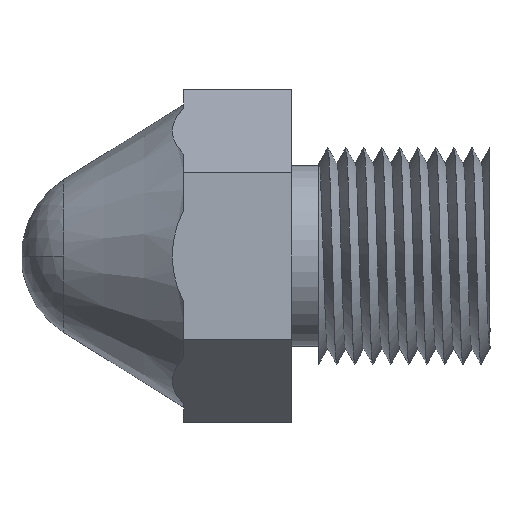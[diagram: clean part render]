
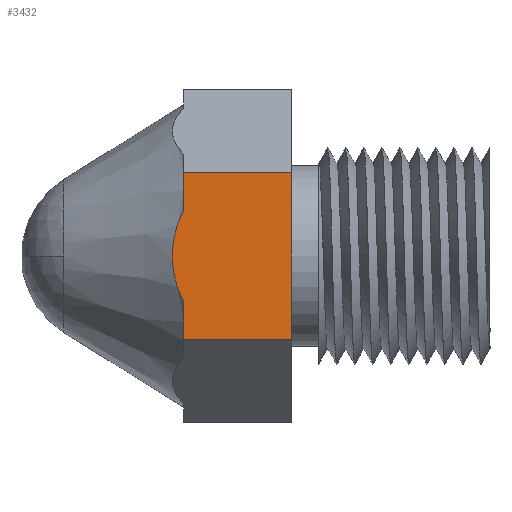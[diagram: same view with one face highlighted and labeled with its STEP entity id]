
A CAD part, front view. The second image highlights one B-rep face of the part: STEP entity #3432.
In plain terms, the highlighted planar face has unit normal (0, -1, 0).
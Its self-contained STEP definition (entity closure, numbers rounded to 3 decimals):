
#52 = DIRECTION ( 'NONE',  ( 0., 0., -1. ) ) ;
#60 = EDGE_CURVE ( 'NONE', #883, #1681, #653, .T. ) ;
#76 = CARTESIAN_POINT ( 'NONE',  ( 16.964, -16., 2.189 ) ) ;
#284 = CARTESIAN_POINT ( 'NONE',  ( 18., -16., -5.092 ) ) ;
#310 = CARTESIAN_POINT ( 'NONE',  ( 18., -16., -5.092 ) ) ;
#338 = CARTESIAN_POINT ( 'NONE',  ( 17.616, -16., 4.301 ) ) ;
#392 = VECTOR ( 'NONE', #3034, 1000. ) ;
#434 = VERTEX_POINT ( 'NONE', #1482 ) ;
#590 = CARTESIAN_POINT ( 'NONE',  ( 16.878, -16., 1.753 ) ) ;
#600 = DIRECTION ( 'NONE',  ( 0., 0., 1. ) ) ;
#609 = ORIENTED_EDGE ( 'NONE', *, *, #2058, .T. ) ;
#618 = PLANE ( 'NONE',  #1944 ) ;
#653 = LINE ( 'NONE', #2943, #1608 ) ;
#765 = ORIENTED_EDGE ( 'NONE', *, *, #3001, .T. ) ;
#799 = ORIENTED_EDGE ( 'NONE', *, *, #60, .T. ) ;
#835 = CARTESIAN_POINT ( 'NONE',  ( 16.735, -16., 0.445 ) ) ;
#883 = VERTEX_POINT ( 'NONE', #284 ) ;
#900 = ORIENTED_EDGE ( 'NONE', *, *, #1973, .F. ) ;
#906 = EDGE_CURVE ( 'NONE', #883, #1180, #1211, .T. ) ;
#946 = CARTESIAN_POINT ( 'NONE',  ( 18., -16., 0. ) ) ;
#1034 = CARTESIAN_POINT ( 'NONE',  ( 30., -16., 9.238 ) ) ;
#1050 = LINE ( 'NONE', #3014, #392 ) ;
#1070 = CARTESIAN_POINT ( 'NONE',  ( 17.612, -16., -4.293 ) ) ;
#1080 = CARTESIAN_POINT ( 'NONE',  ( 17.295, -16., -3.471 ) ) ;
#1110 = CARTESIAN_POINT ( 'NONE',  ( 16.764, -16., 0.882 ) ) ;
#1149 = DIRECTION ( 'NONE',  ( 0., 0., 1. ) ) ;
#1180 = VERTEX_POINT ( 'NONE', #2893 ) ;
#1202 = CARTESIAN_POINT ( 'NONE',  ( 8., -16., 9.238 ) ) ;
#1211 = B_SPLINE_CURVE_WITH_KNOTS ( 'NONE', 3,
 ( #310, #1070, #1080, #2151, #3245, #1381, #2449, #835, #1110, #590, #76, #2975, #338, #3260 ),
 .UNSPECIFIED., .F., .F.,
 ( 4, 2, 2, 2, 2, 2, 4 ),
 ( 0.045, 0.047, 0.049, 0.05, 0.051, 0.052, 0.055 ),
 .UNSPECIFIED. ) ;
#1381 = CARTESIAN_POINT ( 'NONE',  ( 16.763, -16., -0.871 ) ) ;
#1482 = CARTESIAN_POINT ( 'NONE',  ( 18., -16., 9.238 ) ) ;
#1608 = VECTOR ( 'NONE', #52, 1000. ) ;
#1649 = LINE ( 'NONE', #946, #2887 ) ;
#1656 = CARTESIAN_POINT ( 'NONE',  ( 18., -16., -9.238 ) ) ;
#1681 = VERTEX_POINT ( 'NONE', #1656 ) ;
#1937 = CARTESIAN_POINT ( 'NONE',  ( 30., -16., 0. ) ) ;
#1939 = LINE ( 'NONE', #1937, #2923 ) ;
#1944 = AXIS2_PLACEMENT_3D ( 'NONE', #3029, #3314, #1149 ) ;
#1973 = EDGE_CURVE ( 'NONE', #434, #2212, #2347, .T. ) ;
#2044 = DIRECTION ( 'NONE',  ( 1., 0., 0. ) ) ;
#2058 = EDGE_CURVE ( 'NONE', #434, #1180, #1649, .T. ) ;
#2151 = CARTESIAN_POINT ( 'NONE',  ( 16.965, -16., -2.19 ) ) ;
#2212 = VERTEX_POINT ( 'NONE', #1034 ) ;
#2229 = ORIENTED_EDGE ( 'NONE', *, *, #906, .F. ) ;
#2347 = LINE ( 'NONE', #1202, #3353 ) ;
#2372 = EDGE_LOOP ( 'NONE', ( #2716, #900, #609, #2229, #799, #765 ) ) ;
#2449 = CARTESIAN_POINT ( 'NONE',  ( 16.734, -16., -0.431 ) ) ;
#2561 = DIRECTION ( 'NONE',  ( 0., 0., -1. ) ) ;
#2716 = ORIENTED_EDGE ( 'NONE', *, *, #2879, .T. ) ;
#2879 = EDGE_CURVE ( 'NONE', #2969, #2212, #1939, .T. ) ;
#2887 = VECTOR ( 'NONE', #2561, 1000. ) ;
#2893 = CARTESIAN_POINT ( 'NONE',  ( 18., -16., 5.092 ) ) ;
#2923 = VECTOR ( 'NONE', #600, 1000. ) ;
#2943 = CARTESIAN_POINT ( 'NONE',  ( 18., -16., 0. ) ) ;
#2969 = VERTEX_POINT ( 'NONE', #3041 ) ;
#2975 = CARTESIAN_POINT ( 'NONE',  ( 17.298, -16., 3.481 ) ) ;
#3001 = EDGE_CURVE ( 'NONE', #1681, #2969, #1050, .T. ) ;
#3014 = CARTESIAN_POINT ( 'NONE',  ( 8., -16., -9.238 ) ) ;
#3029 = CARTESIAN_POINT ( 'NONE',  ( 8., -16., -9.238 ) ) ;
#3034 = DIRECTION ( 'NONE',  ( 1., 0., 0. ) ) ;
#3041 = CARTESIAN_POINT ( 'NONE',  ( 30., -16., -9.238 ) ) ;
#3245 = CARTESIAN_POINT ( 'NONE',  ( 16.878, -16., -1.753 ) ) ;
#3260 = CARTESIAN_POINT ( 'NONE',  ( 18., -16., 5.092 ) ) ;
#3314 = DIRECTION ( 'NONE',  ( 0., 1., 0. ) ) ;
#3350 = FACE_OUTER_BOUND ( 'NONE', #2372, .T. ) ;
#3353 = VECTOR ( 'NONE', #2044, 1000. ) ;
#3432 = ADVANCED_FACE ( 'NONE', ( #3350 ), #618, .F. ) ;
